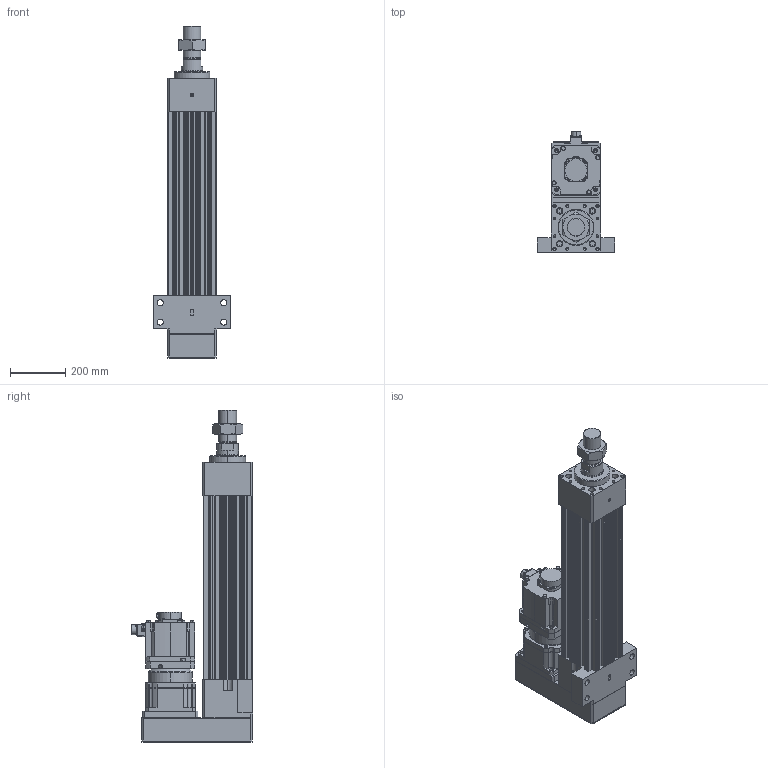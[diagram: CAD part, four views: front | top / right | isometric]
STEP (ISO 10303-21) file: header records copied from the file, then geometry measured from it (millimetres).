
FILE_DESCRIPTION (( 'STEP AP203' ), '1' );
FILE_NAME ('HES180HS-P350-W050G00-M-FFC.STEP', '2023-02-01T07:17:31', ( 'tms' ), ( '' ), 'SwSTEP 2.0', 'SolidWorks 2013', '' );
FILE_SCHEMA (( 'CONFIG_CONTROL_DESIGN' ));
Length unit declared in the file: millimetre
Products named in the file (9): P1301600001; HES180 ROD M ST350; HES180HS-P350-W050G00-M-FFC; HG-SR502; P0403600401; M64X2.0P; AB180-003[HG-SR702B]; HES180-P350-G180-FFC; AB1801
Assembly tree (8 placements, depth 3):
  HES180HS-P350-W050G00-M-FFC
    HES180-P350-G180-FFC
    HES180 ROD M ST350
    M64X2.0P
    AB180-003[HG-SR702B]
      AB1801
      P1301600001
      P0403600401
    HG-SR502
Bounding box: 280 x 438.85 x 1202 mm (x, y, z)
Volume: 27700210.4 mm3; surface area: 2372706 mm2
Topology: 4 solids, 19 shells, 1474 faces, 3821 edges, 2463 vertices
Faces by surface type: cylinder 686, plane 553, cone 168, bspline 63, torus 4
Entity records: 53682 total; most frequent: CARTESIAN_POINT 16162, DIRECTION 7905, ORIENTED_EDGE 7498, EDGE_CURVE 3773, AXIS2_PLACEMENT_3D 2986, VERTEX_POINT 2463, VECTOR 1933, LINE 1933
